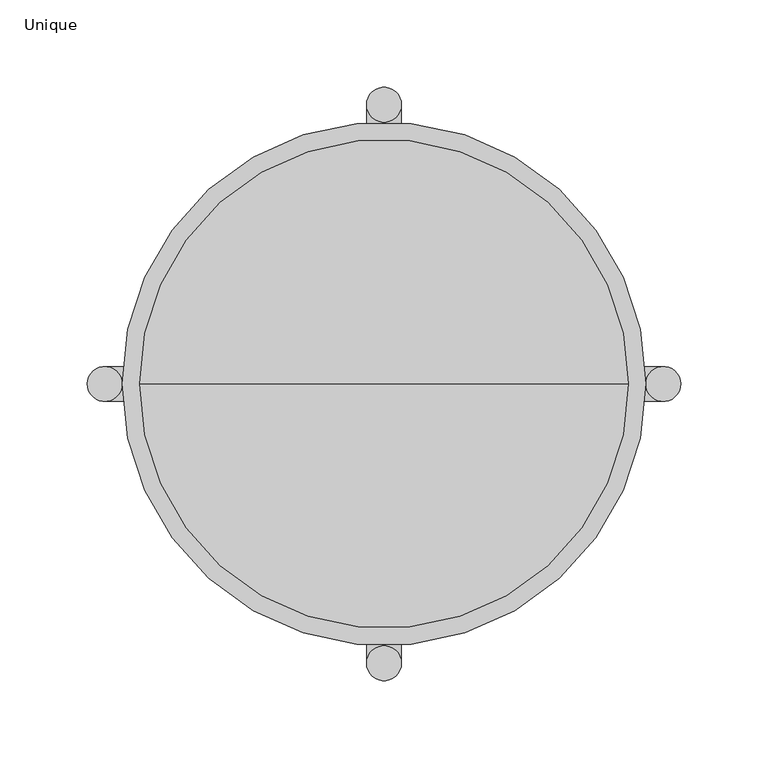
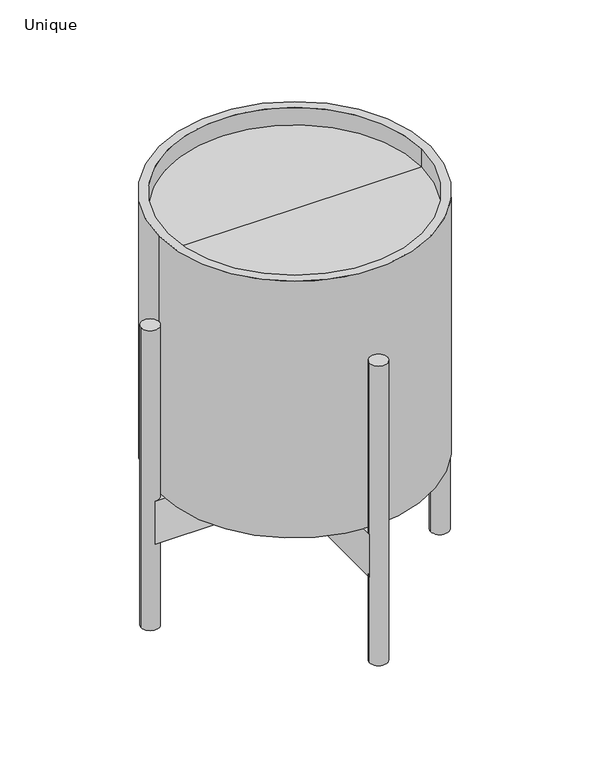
"""IFC4 building model written with IfcOpenShell, lengths in millimetres: furniture geometry, Cactus Ceramic Vase : Unique."""

from ifc_helpers import new_model, si_unit, frame, origin, place, context, project, spatial, polyline, circle_curve, source, transform, mapped, element, save
from ifc_brep_helpers import plane_surface, cylinder_surface, revolved_surface, advanced_brep


def unique_7b46b032(model_context):
    return source(origin(), model_context, "Body", "AdvancedBrep", [
        advanced_brep(
        [(-10.0, -115.0194531, 150.0), (-160.0, -115.0194531, 150.0), (-150.0, -125.0194531, 150.0), (-160.0, -135.0194531, 150.0), (-10.0, -135.0194531, 150.0), (-10.0, -285.0194531, 150.0), (10.0, -285.0194531, 150.0), (10.0, -135.0194531, 150.0), (160.0, -135.0194531, 150.0), (150.0, -125.0194531, 150.0), (160.0, -115.0194531, 150.0), (10.0, -115.0194531, 150.0), (10.0, 34.9805469, 150.0), (-10.0, 34.9805469, 150.0), (-10.0, -115.0194531, 100.0), (-10.0, 34.9805469, 100.0), (10.0, 34.9805469, 100.0), (10.0, -115.0194531, 100.0), (160.0, -115.0194531, 100.0), (150.0, -125.0194531, 100.0), (160.0, -135.0194531, 100.0), (10.0, -135.0194531, 100.0), (10.0, -285.0194531, 100.0), (-10.0, -285.0194531, 100.0), (-10.0, -135.0194531, 100.0), (-160.0, -135.0194531, 100.0), (-150.0, -125.0194531, 100.0), (-160.0, -115.0194531, 100.0), (-10.0, 34.9805469, 350.0), (10.0, 34.9805469, 350.0), (150.0, -125.0194531, 350.0), (170.0, -125.0194531, 350.0), (-170.0, -125.0194531, 350.0), (-150.0, -125.0194531, 350.0), (-10.0, -285.0194531, 350.0), (10.0, -285.0194531, 350.0), (-10.0, 34.9805469, 0.0), (10.0, 34.9805469, 0.0), (150.0, -125.0194531, 0.0), (170.0, -125.0194531, 0.0), (-170.0, -125.0194531, 0.0), (-150.0, -125.0194531, 0.0), (-10.0, -285.0194531, 0.0), (10.0, -285.0194531, 0.0)],
        [
            (0, 1),
            (1, 2, circle_curve(frame((-160.0, -125.0194531, 150.0), z_axis=(0.0, 0.0, -1.0), x_axis=(1.0, 0.0, 0.0)), 10.0)),
            (2, 3, circle_curve(frame((-160.0, -125.0194531, 150.0), z_axis=(0.0, 0.0, -1.0), x_axis=(1.0, 0.0, 0.0)), 10.0)),
            (3, 4),
            (4, 5),
            (5, 6, circle_curve(frame((0.0, -285.0194531, 150.0), z_axis=(0.0, 0.0, -1.0), x_axis=(1.0, 0.0, 0.0)), 10.0)),
            (6, 7),
            (7, 8),
            (8, 9, circle_curve(frame((160.0, -125.0194531, 150.0), z_axis=(0.0, 0.0, -1.0), x_axis=(1.0, 0.0, 0.0)), 10.0)),
            (9, 10, circle_curve(frame((160.0, -125.0194531, 150.0), z_axis=(0.0, 0.0, -1.0), x_axis=(1.0, 0.0, 0.0)), 10.0)),
            (10, 11),
            (11, 12),
            (12, 13, circle_curve(frame((0.0, 34.9805469, 150.0), z_axis=(0.0, 0.0, -1.0), x_axis=(1.0, 0.0, 0.0)), 10.0)),
            (13, 0),
            (14, 15),
            (15, 16, circle_curve(frame((0.0, 34.9805469, 100.0), z_axis=(0.0, 0.0, 1.0), x_axis=(1.0, 0.0, 0.0)), 10.0)),
            (16, 17),
            (17, 18),
            (18, 19, circle_curve(frame((160.0, -125.0194531, 100.0), z_axis=(0.0, 0.0, 1.0), x_axis=(1.0, 0.0, 0.0)), 10.0)),
            (19, 20, circle_curve(frame((160.0, -125.0194531, 100.0), z_axis=(0.0, 0.0, 1.0), x_axis=(1.0, 0.0, 0.0)), 10.0)),
            (20, 21),
            (21, 22),
            (22, 23, circle_curve(frame((0.0, -285.0194531, 100.0), z_axis=(0.0, 0.0, 1.0), x_axis=(1.0, 0.0, 0.0)), 10.0)),
            (23, 24),
            (24, 25),
            (25, 26, circle_curve(frame((-160.0, -125.0194531, 100.0), z_axis=(0.0, 0.0, 1.0), x_axis=(1.0, 0.0, 0.0)), 10.0)),
            (26, 27, circle_curve(frame((-160.0, -125.0194531, 100.0), z_axis=(0.0, 0.0, 1.0), x_axis=(1.0, 0.0, 0.0)), 10.0)),
            (27, 14),
            (0, 14),
            (27, 1),
            (3, 25),
            (24, 4),
            (23, 5),
            (6, 22),
            (21, 7),
            (20, 8),
            (10, 18),
            (17, 11),
            (16, 12),
            (13, 15),
            (28, 29, circle_curve(frame((0.0, 34.9805469, 350.0), z_axis=(0.0, 0.0, 1.0), x_axis=(1.0, 0.0, 0.0)), 10.0)),
            (29, 28, circle_curve(frame((0.0, 34.9805469, 350.0), z_axis=(0.0, 0.0, 1.0), x_axis=(1.0, 0.0, 0.0)), 10.0)),
            (30, 31, circle_curve(frame((160.0, -125.0194531, 350.0), z_axis=(0.0, 0.0, 1.0), x_axis=(1.0, 0.0, 0.0)), 10.0)),
            (31, 30, circle_curve(frame((160.0, -125.0194531, 350.0), z_axis=(0.0, 0.0, 1.0), x_axis=(1.0, 0.0, 0.0)), 10.0)),
            (32, 33, circle_curve(frame((-160.0, -125.0194531, 350.0), z_axis=(0.0, 0.0, 1.0), x_axis=(1.0, 0.0, 0.0)), 10.0)),
            (33, 32, circle_curve(frame((-160.0, -125.0194531, 350.0), z_axis=(0.0, 0.0, 1.0), x_axis=(1.0, 0.0, 0.0)), 10.0)),
            (34, 35, circle_curve(frame((0.0, -285.0194531, 350.0), z_axis=(0.0, 0.0, 1.0), x_axis=(1.0, 0.0, 0.0)), 10.0)),
            (35, 34, circle_curve(frame((0.0, -285.0194531, 350.0), z_axis=(0.0, 0.0, 1.0), x_axis=(1.0, 0.0, 0.0)), 10.0)),
            (36, 37, circle_curve(frame((0.0, 34.9805469, 0.0), z_axis=(0.0, 0.0, -1.0), x_axis=(1.0, 0.0, 0.0)), 10.0)),
            (37, 36, circle_curve(frame((0.0, 34.9805469, 0.0), z_axis=(0.0, 0.0, -1.0), x_axis=(1.0, 0.0, 0.0)), 10.0)),
            (38, 39, circle_curve(frame((160.0, -125.0194531, 0.0), z_axis=(0.0, 0.0, -1.0), x_axis=(1.0, 0.0, 0.0)), 10.0)),
            (39, 38, circle_curve(frame((160.0, -125.0194531, 0.0), z_axis=(0.0, 0.0, -1.0), x_axis=(1.0, 0.0, 0.0)), 10.0)),
            (40, 41, circle_curve(frame((-160.0, -125.0194531, 0.0), z_axis=(0.0, 0.0, -1.0), x_axis=(1.0, 0.0, 0.0)), 10.0)),
            (41, 40, circle_curve(frame((-160.0, -125.0194531, 0.0), z_axis=(0.0, 0.0, -1.0), x_axis=(1.0, 0.0, 0.0)), 10.0)),
            (42, 43, circle_curve(frame((0.0, -285.0194531, 0.0), z_axis=(0.0, 0.0, -1.0), x_axis=(1.0, 0.0, 0.0)), 10.0)),
            (43, 42, circle_curve(frame((0.0, -285.0194531, 0.0), z_axis=(0.0, 0.0, -1.0), x_axis=(1.0, 0.0, 0.0)), 10.0)),
            (28, 13),
            (12, 29),
            (37, 16),
            (15, 36),
            (30, 9),
            (19, 38),
            (39, 31),
            (32, 40),
            (41, 26),
            (2, 33),
            (34, 5),
            (23, 42),
            (43, 22),
            (6, 35),
        ],
        [
            plane_surface(frame((-160.0, -115.0194531, 150.0), z_axis=(0.0, 0.0, 1.0), x_axis=(-1.0, 0.0, 0.0))),
            plane_surface(frame((-160.0, -115.0194531, 100.0), z_axis=(0.0, 0.0, -1.0), x_axis=(1.0, 0.0, 0.0))),
            plane_surface(frame((-10.0, -115.0194531, 150.0), z_axis=(0.0, 1.0, 0.0), x_axis=(0.0, 0.0, -1.0))),
            plane_surface(frame((-160.0, -135.0194531, 150.0), z_axis=(0.0, -1.0, 0.0), x_axis=(0.0, 0.0, -1.0))),
            plane_surface(frame((-10.0, -135.0194531, 150.0), z_axis=(-1.0, 0.0, 0.0), x_axis=(0.0, 0.0, -1.0))),
            plane_surface(frame((10.0, -285.0194531, 150.0), z_axis=(1.0, 0.0, 0.0), x_axis=(0.0, 0.0, -1.0))),
            plane_surface(frame((10.0, -135.0194531, 150.0), z_axis=(0.0, -1.0, 0.0), x_axis=(0.0, 0.0, -1.0))),
            plane_surface(frame((160.0, -115.0194531, 150.0), z_axis=(0.0, 1.0, 0.0), x_axis=(0.0, 0.0, -1.0))),
            plane_surface(frame((10.0, -115.0194531, 150.0), z_axis=(1.0, 0.0, 0.0), x_axis=(0.0, 0.0, -1.0))),
            plane_surface(frame((-10.0, 34.9805469, 150.0), z_axis=(-1.0, 0.0, 0.0), x_axis=(0.0, 0.0, -1.0))),
            plane_surface(frame((10.0, 34.9805469, 350.0), z_axis=(0.0, 0.0, 1.0), x_axis=(0.0, 1.0, 0.0))),
            plane_surface(frame((10.0, 34.9805469, 0.0), z_axis=(0.0, 0.0, -1.0), x_axis=(0.0, -1.0, 0.0))),
            cylinder_surface(frame((0.0, 34.9805469, 0.0), z_axis=(0.0, 0.0, 1.0), x_axis=(1.0, 0.0, 0.0)), 10.0),
            cylinder_surface(frame((160.0, -125.0194531, 0.0), z_axis=(0.0, 0.0, 1.0), x_axis=(1.0, 0.0, 0.0)), 10.0),
            cylinder_surface(frame((-160.0, -125.0194531, 0.0), z_axis=(0.0, 0.0, 1.0), x_axis=(1.0, 0.0, 0.0)), 10.0),
            cylinder_surface(frame((0.0, -285.0194531, 0.0), z_axis=(0.0, 0.0, 1.0), x_axis=(1.0, 0.0, 0.0)), 10.0),
        ],
        [
            (0, [[1, 2, 3, 4, 5, 6, 7, 8, 9, 10, 11, 12, 13, 14]]),
            (1, [[15, 16, 17, 18, 19, 20, 21, 22, 23, 24, 25, 26, 27, 28]]),
            (2, [[-1, 29, -28, 30]]),
            (3, [[-4, 31, -25, 32]]),
            (4, [[-5, -32, -24, 33]]),
            (5, [[-7, 34, -22, 35]]),
            (6, [[-8, -35, -21, 36]]),
            (7, [[-11, 37, -18, 38]]),
            (8, [[-12, -38, -17, 39]]),
            (9, [[-14, 40, -15, -29]]),
            (10, [[41, 42]]),
            (10, [[43, 44]]),
            (10, [[45, 46]]),
            (10, [[47, 48]]),
            (11, [[49, 50]]),
            (11, [[51, 52]]),
            (11, [[53, 54]]),
            (11, [[55, 56]]),
            (12, [[-41, 57, -13, 58]]),
            (12, [[-50, 59, -16, 60]]),
            (12, [[-42, -58, -39, -59, -49, -60, -40, -57]]),
            (13, [[-43, 61, -9, -36, -20, 62, -52, 63]]),
            (13, [[-44, -63, -51, -62, -19, -37, -10, -61]]),
            (14, [[-45, 64, -54, 65, -26, -31, -3, 66]]),
            (14, [[-46, -66, -2, -30, -27, -65, -53, -64]]),
            (15, [[-47, 67, -33, 68, -56, 69, -34, 70]]),
            (15, [[-48, -70, -6, -67]]),
            (15, [[-55, -68, -23, -69]]),
        ],
    ),
        advanced_brep(
        [(-150.0, -125.0194531, 450.0), (150.0, -125.0194531, 450.0), (140.0, -125.0194531, 450.0), (-140.0, -125.0194531, 450.0), (-150.0, -125.0194531, 150.0), (150.0, -125.0194531, 150.0), (-140.0, -125.0194531, 160.0), (140.0, -125.0194531, 160.0)],
        [
            (0, 1, circle_curve(frame((0.0, -125.0194531, 450.0), z_axis=(0.0, 0.0, 1.0), x_axis=(1.0, 0.0, 0.0)), 150.0)),
            (1, 0, circle_curve(frame((0.0, -125.0194531, 450.0), z_axis=(0.0, 0.0, 1.0), x_axis=(1.0, 0.0, 0.0)), 150.0)),
            (2, 3, circle_curve(frame((0.0, -125.0194531, 450.0), z_axis=(0.0, 0.0, -1.0), x_axis=(1.0, 0.0, 0.0)), 140.0)),
            (3, 2, circle_curve(frame((0.0, -125.0194531, 450.0), z_axis=(0.0, 0.0, -1.0), x_axis=(1.0, 0.0, 0.0)), 140.0)),
            (4, 5, circle_curve(frame((0.0, -125.0194531, 150.0), z_axis=(0.0, 0.0, -1.0), x_axis=(1.0, 0.0, 0.0)), 150.0)),
            (5, 4, circle_curve(frame((0.0, -125.0194531, 150.0), z_axis=(0.0, 0.0, -1.0), x_axis=(1.0, 0.0, 0.0)), 150.0)),
            (0, 4),
            (5, 1),
            (6, 7, circle_curve(frame((0.0, -125.0194531, 160.0), z_axis=(0.0, 0.0, 1.0), x_axis=(1.0, 0.0, 0.0)), 140.0)),
            (7, 6, circle_curve(frame((0.0, -125.0194531, 160.0), z_axis=(0.0, 0.0, 1.0), x_axis=(1.0, 0.0, 0.0)), 140.0)),
            (6, 3),
            (2, 7),
        ],
        [
            plane_surface(frame((150.0, -125.0194531, 450.0), z_axis=(0.0, 0.0, 1.0), x_axis=(0.0, 1.0, 0.0))),
            plane_surface(frame((150.0, -125.0194531, 150.0), z_axis=(0.0, 0.0, -1.0), x_axis=(0.0, -1.0, 0.0))),
            cylinder_surface(frame((0.0, -125.0194531, 150.0), z_axis=(0.0, 0.0, 1.0), x_axis=(1.0, 0.0, 0.0)), 150.0),
            plane_surface(frame((140.0, -125.0194531, 160.0), z_axis=(0.0, 0.0, 1.0), x_axis=(0.0, -1.0, 0.0))),
            revolved_surface(polyline([(140.0, -125.0194531, 450.0), (140.0, -125.0194531, 160.0)]), (0.0, -125.0194531, 160.0), (0.0, 0.0, 1.0)),
        ],
        [
            (0, [[1, 2], [3, 4]]),
            (1, [[5, 6]]),
            (2, [[-1, 7, -6, 8]]),
            (2, [[-2, -8, -5, -7]]),
            (3, [[9, 10]]),
            (4, [[-9, 11, -3, 12]]),
            (4, [[-10, -12, -4, -11]]),
        ],
    ),
        advanced_brep(
        [(-140.0, -125.0194531, 160.0), (140.0, -125.0194531, 160.0), (0.0, -125.0194531, 160.0), (0.0, -125.0194531, 430.0), (140.0, -125.0194531, 430.0), (-140.0, -125.0194531, 430.0)],
        [
            (0, 1, circle_curve(frame((0.0, -125.0194531, 160.0), z_axis=(0.0, 0.0, -1.0), x_axis=(1.0, 0.0, 0.0)), 140.0)),
            (1, 2),
            (2, 0),
            (1, 0, circle_curve(frame((0.0, -125.0194531, 160.0), z_axis=(0.0, 0.0, -1.0), x_axis=(1.0, 0.0, 0.0)), 140.0)),
            (3, 4),
            (4, 5, circle_curve(frame((0.0, -125.0194531, 430.0), z_axis=(0.0, 0.0, 1.0), x_axis=(1.0, 0.0, 0.0)), 140.0)),
            (5, 3),
            (5, 4, circle_curve(frame((0.0, -125.0194531, 430.0), z_axis=(0.0, 0.0, 1.0), x_axis=(1.0, 0.0, 0.0)), 140.0)),
            (4, 1),
            (0, 5),
        ],
        [
            plane_surface(frame((0.0, -125.0194531, 160.0), z_axis=(0.0, 0.0, -1.0), x_axis=(1.0, 0.0, 0.0))),
            plane_surface(frame((0.0, -125.0194531, 430.0), z_axis=(0.0, 0.0, 1.0), x_axis=(1.0, 0.0, 0.0))),
            cylinder_surface(frame((0.0, -125.0194531, -258.0795175), z_axis=(0.0, 0.0, 1.0), x_axis=(1.0, 0.0, 0.0)), 140.0),
        ],
        [
            (0, [[1, 2, 3]]),
            (0, [[4, -3, -2]]),
            (1, [[5, 6, 7]]),
            (1, [[-7, 8, -5]]),
            (2, [[-6, 9, -1, 10]]),
            (2, [[-8, -10, -4, -9]]),
        ],
    ),
    ])


if __name__ == "__main__":
    model = new_model("IFC4")
    model_context = context("Model", 3, world=origin())
    ifc_project = project(units=[si_unit("LENGTHUNIT", "METRE", prefix="MILLI")], contexts=[model_context])
    site = spatial("IfcSite", under=ifc_project)
    building = spatial("IfcBuilding", under=site)
    placement = place(None, origin())
    unique_shape = unique_7b46b032(model_context)
    element("IfcFurniture", 1, ObjectType="Cactus Ceramic Vase : Unique", at=placement, inside=building, context=model_context, shape_type="MappedRepresentation", body=[
        mapped(unique_shape, transform((0.0, 0.0, 0.0), x_axis=(1.0, 0.0, 0.0), y_axis=(0.0, 1.0, 0.0), z_axis=(0.0, 0.0, 1.0))),
    ])
    save(model, "model.ifc")
